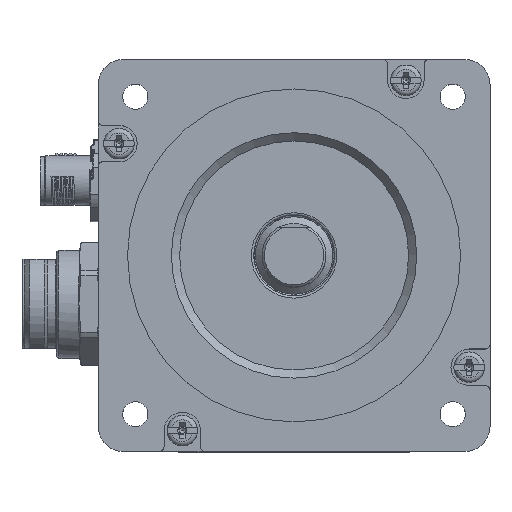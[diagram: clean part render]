
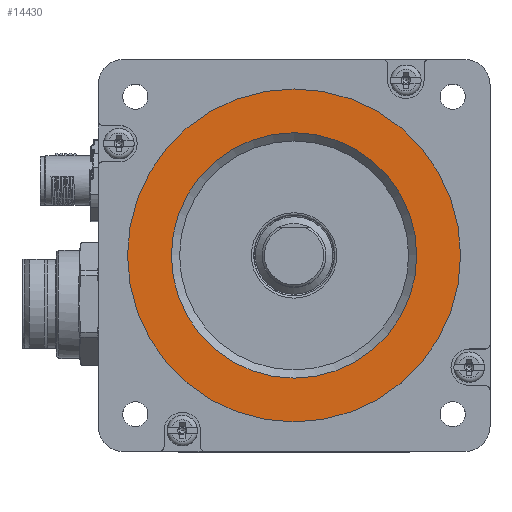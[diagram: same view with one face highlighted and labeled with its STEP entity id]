
A CAD part, top view. The second image highlights one B-rep face of the part: STEP entity #14430.
In plain terms, the highlighted planar face has unit normal (0, 0, 1).
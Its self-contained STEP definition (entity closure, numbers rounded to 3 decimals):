
#202 = ORIENTED_EDGE ( 'NONE', *, *, #42875, .T. ) ;
#510 = PLANE ( 'NONE',  #55914 ) ;
#2222 = AXIS2_PLACEMENT_3D ( 'NONE', #26295, #16883, #2257 ) ;
#2257 = DIRECTION ( 'NONE',  ( 1., 0., 0. ) ) ;
#6100 = VERTEX_POINT ( 'NONE', #16057 ) ;
#6195 = ORIENTED_EDGE ( 'NONE', *, *, #8878, .T. ) ;
#8372 = DIRECTION ( 'NONE',  ( 0., 0., 1. ) ) ;
#8878 = EDGE_CURVE ( 'NONE', #6100, #6100, #20821, .T. ) ;
#14430 = ADVANCED_FACE ( 'NONE', ( #44461, #24511 ), #510, .T. ) ;
#16057 = CARTESIAN_POINT ( 'NONE',  ( -12.45, 42.95, 0. ) ) ;
#16883 = DIRECTION ( 'NONE',  ( 0., 0., -1. ) ) ;
#18359 = CARTESIAN_POINT ( 'NONE',  ( -48.95, 42.95, 0. ) ) ;
#20821 = CIRCLE ( 'NONE', #27774, 36.5 ) ;
#24511 = FACE_OUTER_BOUND ( 'NONE', #46844, .T. ) ;
#26295 = CARTESIAN_POINT ( 'NONE',  ( -48.95, 42.95, 0. ) ) ;
#27774 = AXIS2_PLACEMENT_3D ( 'NONE', #18359, #8372, #30351 ) ;
#29142 = CIRCLE ( 'NONE', #2222, 26.9 ) ;
#29219 = CARTESIAN_POINT ( 'NONE',  ( -86.4, 5.5, 0. ) ) ;
#30351 = DIRECTION ( 'NONE',  ( 1., 0., 0. ) ) ;
#33068 = VERTEX_POINT ( 'NONE', #56498 ) ;
#42875 = EDGE_CURVE ( 'NONE', #33068, #33068, #29142, .T. ) ;
#43851 = DIRECTION ( 'NONE',  ( 0., 0., 1. ) ) ;
#44461 = FACE_BOUND ( 'NONE', #47203, .T. ) ;
#46844 = EDGE_LOOP ( 'NONE', ( #6195 ) ) ;
#47203 = EDGE_LOOP ( 'NONE', ( #202 ) ) ;
#48254 = DIRECTION ( 'NONE',  ( 1., 0., 0. ) ) ;
#55914 = AXIS2_PLACEMENT_3D ( 'NONE', #29219, #43851, #48254 ) ;
#56498 = CARTESIAN_POINT ( 'NONE',  ( -22.05, 42.95, 0. ) ) ;
